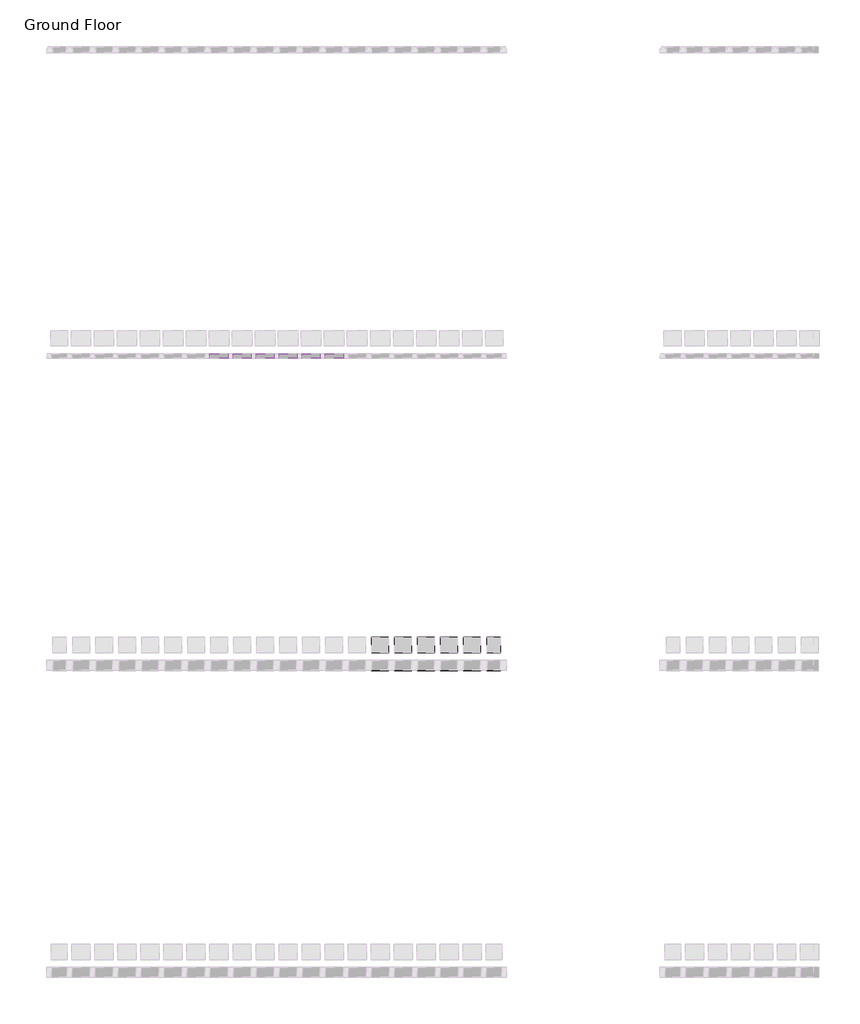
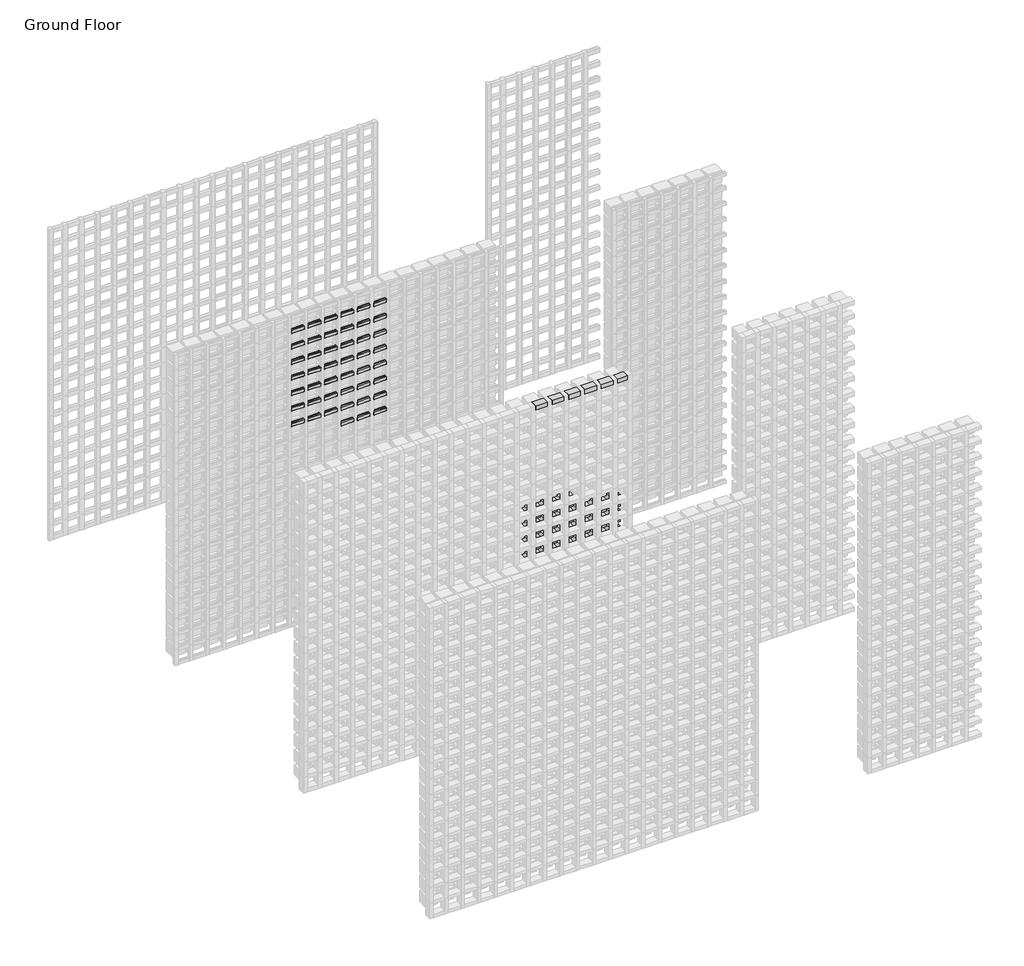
# One storey, part 91 of 350: 75 plates, 64 members.
"""IFC4 building model written with IfcOpenShell, lengths in millimetres."""

from ifc_helpers import new_model, si_unit, origin, place, context, project, spatial, transform, mapped, element, save
from components import rectangular_mullion_655930e9, rectangular_mullion_78309e0b, rectangular_mullion_581565bb, rectangular_mullion_141bfd94, rectangular_mullion_d5b82d3d, rectangular_mullion_f7732041, rectangular_mullion_707a50c4, empty_system_panel_empty_571a4fa0, empty_system_panel_empty_3b500fad, empty_system_panel_empty_1faefc6a, empty_system_panel_empty_b6d7d726

model = new_model("IFC4")

# Units and contexts
model_context = context("Model", 3, world=origin())
ifc_project = project(units=[si_unit("LENGTHUNIT", "METRE", prefix="MILLI")], contexts=[model_context])

# Site, building, storey
site = spatial("IfcSite", under=ifc_project)
building = spatial("IfcBuilding", under=site)
storey = spatial("IfcBuildingStorey", under=building, Name="Ground Floor", Elevation=0.0)

# Members
placement = place(None, origin())
rectangular_mullion_shape = rectangular_mullion_655930e9(model_context)
element("IfcMember", 1, ObjectType="Rectangular Mullion : Batten_Timber_Modinex_Austratus_Grid_Fascia_40x65_AlaskanYellowCedar", at=placement, inside=storey, context=model_context, shape_type="MappedRepresentation", body=[
    mapped(rectangular_mullion_shape, transform((4016.4361642, 40968.2978302, 0.0), x_axis=(1.0, 0.0, 0.0), y_axis=(0.0, -1.0, 0.0), z_axis=(0.0, 0.0, -1.0))),
])
element("IfcMember", 2, ObjectType="Rectangular Mullion : Batten_Timber_Modinex_Austratus_Grid_Fascia_40x65_AlaskanYellowCedar", at=placement, inside=storey, context=model_context, shape_type="MappedRepresentation", body=[
    mapped(rectangular_mullion_shape, transform((4166.4361642, 40968.2978302, 0.0), x_axis=(1.0, 0.0, 0.0), y_axis=(0.0, -1.0, 0.0), z_axis=(0.0, 0.0, -1.0))),
])
element("IfcMember", 3, ObjectType="Rectangular Mullion : Batten_Timber_Modinex_Austratus_Grid_Fascia_40x65_AlaskanYellowCedar", at=placement, inside=storey, context=model_context, shape_type="MappedRepresentation", body=[
    mapped(rectangular_mullion_shape, transform((4316.4361642, 40968.2978302, 0.0), x_axis=(1.0, 0.0, 0.0), y_axis=(0.0, -1.0, 0.0), z_axis=(0.0, 0.0, -1.0))),
])
element("IfcMember", 4, ObjectType="Rectangular Mullion : Batten_Timber_Modinex_Austratus_Grid_Fascia_40x65_AlaskanYellowCedar", at=placement, inside=storey, context=model_context, shape_type="MappedRepresentation", body=[
    mapped(rectangular_mullion_shape, transform((4466.4361642, 40968.2978302, 0.0), x_axis=(1.0, 0.0, 0.0), y_axis=(0.0, -1.0, 0.0), z_axis=(0.0, 0.0, -1.0))),
])
element("IfcMember", 5, ObjectType="Rectangular Mullion : Batten_Timber_Modinex_Austratus_Grid_Fascia_40x65_AlaskanYellowCedar", at=placement, inside=storey, context=model_context, shape_type="MappedRepresentation", body=[
    mapped(rectangular_mullion_shape, transform((4616.4361642, 40968.2978302, 0.0), x_axis=(1.0, 0.0, 0.0), y_axis=(0.0, -1.0, 0.0), z_axis=(0.0, 0.0, -1.0))),
])
element("IfcMember", 6, ObjectType="Rectangular Mullion : Batten_Timber_Modinex_Austratus_Grid_Fascia_40x65_AlaskanYellowCedar", at=placement, inside=storey, context=model_context, shape_type="MappedRepresentation", body=[
    mapped(rectangular_mullion_shape, transform((4766.4361642, 40968.2978302, 0.0), x_axis=(1.0, 0.0, 0.0), y_axis=(0.0, -1.0, 0.0), z_axis=(0.0, 0.0, -1.0))),
])
rectangular_mullion_2_shape = rectangular_mullion_78309e0b(model_context)
element("IfcMember", 7, ObjectType="Rectangular Mullion : Batten_Timber_Modinex_Austratus_Grid_Fascia_40x65_AlaskanYellowCedar", at=placement, inside=storey, context=model_context, shape_type="MappedRepresentation", body=[
    mapped(rectangular_mullion_2_shape, transform((4876.4361639, 40968.2978302, 3000.0), x_axis=(0.0, 0.0, 1.0), y_axis=(0.0, -1.0, 0.0), z_axis=(1.0, 0.0, 0.0))),
])
rectangular_mullion_3_shape = rectangular_mullion_581565bb(model_context)
element("IfcMember", 8, ObjectType="Rectangular Mullion : Batten_Timber_Modinex_Austratus_Grid_Fascia_40x65_AlaskanYellowCedar", at=placement, inside=storey, context=model_context, shape_type="MappedRepresentation", body=[
    mapped(rectangular_mullion_3_shape, transform((4146.4361642, 40968.2978302, 3000.0), x_axis=(0.0, 0.0, 1.0), y_axis=(0.0, -1.0, 0.0), z_axis=(1.0, 0.0, 0.0))),
])
element("IfcMember", 9, ObjectType="Rectangular Mullion : Batten_Timber_Modinex_Austratus_Grid_Fascia_40x65_AlaskanYellowCedar", at=placement, inside=storey, context=model_context, shape_type="MappedRepresentation", body=[
    mapped(rectangular_mullion_3_shape, transform((4296.4361642, 40968.2978302, 3000.0), x_axis=(0.0, 0.0, 1.0), y_axis=(0.0, -1.0, 0.0), z_axis=(1.0, 0.0, 0.0))),
])
element("IfcMember", 10, ObjectType="Rectangular Mullion : Batten_Timber_Modinex_Austratus_Grid_Fascia_40x65_AlaskanYellowCedar", at=placement, inside=storey, context=model_context, shape_type="MappedRepresentation", body=[
    mapped(rectangular_mullion_3_shape, transform((4446.4361642, 40968.2978302, 3000.0), x_axis=(0.0, 0.0, 1.0), y_axis=(0.0, -1.0, 0.0), z_axis=(1.0, 0.0, 0.0))),
])
element("IfcMember", 11, ObjectType="Rectangular Mullion : Batten_Timber_Modinex_Austratus_Grid_Fascia_40x65_AlaskanYellowCedar", at=placement, inside=storey, context=model_context, shape_type="MappedRepresentation", body=[
    mapped(rectangular_mullion_3_shape, transform((4596.4361642, 40968.2978302, 3000.0), x_axis=(0.0, 0.0, 1.0), y_axis=(0.0, -1.0, 0.0), z_axis=(1.0, 0.0, 0.0))),
])
element("IfcMember", 12, ObjectType="Rectangular Mullion : Batten_Timber_Modinex_Austratus_Grid_Fascia_40x65_AlaskanYellowCedar", at=placement, inside=storey, context=model_context, shape_type="MappedRepresentation", body=[
    mapped(rectangular_mullion_3_shape, transform((4746.4361642, 40968.2978302, 3000.0), x_axis=(0.0, 0.0, 1.0), y_axis=(0.0, -1.0, 0.0), z_axis=(1.0, 0.0, 0.0))),
])
rectangular_mullion_4_shape = rectangular_mullion_141bfd94(model_context)
element("IfcMember", 13, ObjectType="Rectangular Mullion : Batten_Timber_Modinex_Austratus_Grid_Fascia_40x65_AlaskanYellowCedar", at=placement, inside=storey, context=model_context, shape_type="MappedRepresentation", body=[
    mapped(rectangular_mullion_4_shape, transform((4786.4361642, 40968.2978302, 0.0), x_axis=(0.0, 0.0, -1.0), y_axis=(0.0, -1.0, 0.0), z_axis=(-1.0, 0.0, 0.0))),
])
rectangular_mullion_5_shape = rectangular_mullion_d5b82d3d(model_context)
element("IfcMember", 14, ObjectType="Rectangular Mullion : Batten_Timber_Modinex_Austratus_Grid_Fascia_40x65_AlaskanYellowCedar", at=placement, inside=storey, context=model_context, shape_type="MappedRepresentation", body=[
    mapped(rectangular_mullion_5_shape, transform((4036.4361642, 40968.2978302, 0.0), x_axis=(0.0, 0.0, -1.0), y_axis=(0.0, -1.0, 0.0), z_axis=(-1.0, 0.0, 0.0))),
])
element("IfcMember", 15, ObjectType="Rectangular Mullion : Batten_Timber_Modinex_Austratus_Grid_Fascia_40x65_AlaskanYellowCedar", at=placement, inside=storey, context=model_context, shape_type="MappedRepresentation", body=[
    mapped(rectangular_mullion_5_shape, transform((4186.4361642, 40968.2978302, 0.0), x_axis=(0.0, 0.0, -1.0), y_axis=(0.0, -1.0, 0.0), z_axis=(-1.0, 0.0, 0.0))),
])
element("IfcMember", 16, ObjectType="Rectangular Mullion : Batten_Timber_Modinex_Austratus_Grid_Fascia_40x65_AlaskanYellowCedar", at=placement, inside=storey, context=model_context, shape_type="MappedRepresentation", body=[
    mapped(rectangular_mullion_5_shape, transform((4336.4361642, 40968.2978302, 0.0), x_axis=(0.0, 0.0, -1.0), y_axis=(0.0, -1.0, 0.0), z_axis=(-1.0, 0.0, 0.0))),
])
element("IfcMember", 17, ObjectType="Rectangular Mullion : Batten_Timber_Modinex_Austratus_Grid_Fascia_40x65_AlaskanYellowCedar", at=placement, inside=storey, context=model_context, shape_type="MappedRepresentation", body=[
    mapped(rectangular_mullion_5_shape, transform((4486.4361642, 40968.2978302, 0.0), x_axis=(0.0, 0.0, -1.0), y_axis=(0.0, -1.0, 0.0), z_axis=(-1.0, 0.0, 0.0))),
])
element("IfcMember", 18, ObjectType="Rectangular Mullion : Batten_Timber_Modinex_Austratus_Grid_Fascia_40x65_AlaskanYellowCedar", at=placement, inside=storey, context=model_context, shape_type="MappedRepresentation", body=[
    mapped(rectangular_mullion_5_shape, transform((4636.4361642, 40968.2978302, 0.0), x_axis=(0.0, 0.0, -1.0), y_axis=(0.0, -1.0, 0.0), z_axis=(-1.0, 0.0, 0.0))),
])
rectangular_mullion_6_shape = rectangular_mullion_f7732041(model_context)
element("IfcMember", 19, ObjectType="Rectangular Mullion : Batten_Timber_Modinex_Austratus_Grid_Fascia_40x65_AlaskanYellowCedar", at=placement, inside=storey, context=model_context, shape_type="MappedRepresentation", body=[
    mapped(rectangular_mullion_6_shape, transform((4916.4361639, 40968.2978302, 0.0), x_axis=(1.0, 0.0, 0.0), y_axis=(0.0, -1.0, 0.0), z_axis=(0.0, 0.0, -1.0))),
])
rectangular_mullion_7_shape = rectangular_mullion_707a50c4(model_context)
element("IfcMember", 20, ObjectType="Rectangular Mullion : Batten_Timber_Modinex_Austratus_Grid_Fin_30x30_AlaskanYellowCedar", at=placement, inside=storey, context=model_context, shape_type="MappedRepresentation", body=[
    mapped(rectangular_mullion_7_shape, transform((3551.4361642, 42968.2978302, 1800.0), x_axis=(0.0, 0.0, 1.0), y_axis=(0.0, -1.0, 0.0), z_axis=(1.0, 0.0, 0.0))),
])
element("IfcMember", 21, ObjectType="Rectangular Mullion : Batten_Timber_Modinex_Austratus_Grid_Fin_30x30_AlaskanYellowCedar", at=placement, inside=storey, context=model_context, shape_type="MappedRepresentation", body=[
    mapped(rectangular_mullion_7_shape, transform((3701.4361642, 42968.2978302, 1800.0), x_axis=(0.0, 0.0, 1.0), y_axis=(0.0, -1.0, 0.0), z_axis=(1.0, 0.0, 0.0))),
])
element("IfcMember", 22, ObjectType="Rectangular Mullion : Batten_Timber_Modinex_Austratus_Grid_Fin_30x30_AlaskanYellowCedar", at=placement, inside=storey, context=model_context, shape_type="MappedRepresentation", body=[
    mapped(rectangular_mullion_7_shape, transform((3851.4361642, 42968.2978302, 1800.0), x_axis=(0.0, 0.0, 1.0), y_axis=(0.0, -1.0, 0.0), z_axis=(1.0, 0.0, 0.0))),
])
element("IfcMember", 23, ObjectType="Rectangular Mullion : Batten_Timber_Modinex_Austratus_Grid_Fin_30x30_AlaskanYellowCedar", at=placement, inside=storey, context=model_context, shape_type="MappedRepresentation", body=[
    mapped(rectangular_mullion_7_shape, transform((3101.4361642, 42968.2978302, 1950.0), x_axis=(0.0, 0.0, 1.0), y_axis=(0.0, -1.0, 0.0), z_axis=(1.0, 0.0, 0.0))),
])
element("IfcMember", 24, ObjectType="Rectangular Mullion : Batten_Timber_Modinex_Austratus_Grid_Fin_30x30_AlaskanYellowCedar", at=placement, inside=storey, context=model_context, shape_type="MappedRepresentation", body=[
    mapped(rectangular_mullion_7_shape, transform((3251.4361642, 42968.2978302, 1950.0), x_axis=(0.0, 0.0, 1.0), y_axis=(0.0, -1.0, 0.0), z_axis=(1.0, 0.0, 0.0))),
])
element("IfcMember", 25, ObjectType="Rectangular Mullion : Batten_Timber_Modinex_Austratus_Grid_Fin_30x30_AlaskanYellowCedar", at=placement, inside=storey, context=model_context, shape_type="MappedRepresentation", body=[
    mapped(rectangular_mullion_7_shape, transform((3401.4361642, 42968.2978302, 1950.0), x_axis=(0.0, 0.0, 1.0), y_axis=(0.0, -1.0, 0.0), z_axis=(1.0, 0.0, 0.0))),
])
element("IfcMember", 26, ObjectType="Rectangular Mullion : Batten_Timber_Modinex_Austratus_Grid_Fin_30x30_AlaskanYellowCedar", at=placement, inside=storey, context=model_context, shape_type="MappedRepresentation", body=[
    mapped(rectangular_mullion_7_shape, transform((3551.4361642, 42968.2978302, 1950.0), x_axis=(0.0, 0.0, 1.0), y_axis=(0.0, -1.0, 0.0), z_axis=(1.0, 0.0, 0.0))),
])
element("IfcMember", 27, ObjectType="Rectangular Mullion : Batten_Timber_Modinex_Austratus_Grid_Fin_30x30_AlaskanYellowCedar", at=placement, inside=storey, context=model_context, shape_type="MappedRepresentation", body=[
    mapped(rectangular_mullion_7_shape, transform((3701.4361642, 42968.2978302, 1950.0), x_axis=(0.0, 0.0, 1.0), y_axis=(0.0, -1.0, 0.0), z_axis=(1.0, 0.0, 0.0))),
])
element("IfcMember", 28, ObjectType="Rectangular Mullion : Batten_Timber_Modinex_Austratus_Grid_Fin_30x30_AlaskanYellowCedar", at=placement, inside=storey, context=model_context, shape_type="MappedRepresentation", body=[
    mapped(rectangular_mullion_7_shape, transform((3851.4361642, 42968.2978302, 1950.0), x_axis=(0.0, 0.0, 1.0), y_axis=(0.0, -1.0, 0.0), z_axis=(1.0, 0.0, 0.0))),
])
element("IfcMember", 29, ObjectType="Rectangular Mullion : Batten_Timber_Modinex_Austratus_Grid_Fin_30x30_AlaskanYellowCedar", at=placement, inside=storey, context=model_context, shape_type="MappedRepresentation", body=[
    mapped(rectangular_mullion_7_shape, transform((3101.4361642, 42968.2978302, 2100.0), x_axis=(0.0, 0.0, 1.0), y_axis=(0.0, -1.0, 0.0), z_axis=(1.0, 0.0, 0.0))),
])
element("IfcMember", 30, ObjectType="Rectangular Mullion : Batten_Timber_Modinex_Austratus_Grid_Fin_30x30_AlaskanYellowCedar", at=placement, inside=storey, context=model_context, shape_type="MappedRepresentation", body=[
    mapped(rectangular_mullion_7_shape, transform((3251.4361642, 42968.2978302, 2100.0), x_axis=(0.0, 0.0, 1.0), y_axis=(0.0, -1.0, 0.0), z_axis=(1.0, 0.0, 0.0))),
])
element("IfcMember", 31, ObjectType="Rectangular Mullion : Batten_Timber_Modinex_Austratus_Grid_Fin_30x30_AlaskanYellowCedar", at=placement, inside=storey, context=model_context, shape_type="MappedRepresentation", body=[
    mapped(rectangular_mullion_7_shape, transform((3401.4361642, 42968.2978302, 2100.0), x_axis=(0.0, 0.0, 1.0), y_axis=(0.0, -1.0, 0.0), z_axis=(1.0, 0.0, 0.0))),
])
element("IfcMember", 32, ObjectType="Rectangular Mullion : Batten_Timber_Modinex_Austratus_Grid_Fin_30x30_AlaskanYellowCedar", at=placement, inside=storey, context=model_context, shape_type="MappedRepresentation", body=[
    mapped(rectangular_mullion_7_shape, transform((3551.4361642, 42968.2978302, 2100.0), x_axis=(0.0, 0.0, 1.0), y_axis=(0.0, -1.0, 0.0), z_axis=(1.0, 0.0, 0.0))),
])
element("IfcMember", 33, ObjectType="Rectangular Mullion : Batten_Timber_Modinex_Austratus_Grid_Fin_30x30_AlaskanYellowCedar", at=placement, inside=storey, context=model_context, shape_type="MappedRepresentation", body=[
    mapped(rectangular_mullion_7_shape, transform((3701.4361642, 42968.2978302, 2100.0), x_axis=(0.0, 0.0, 1.0), y_axis=(0.0, -1.0, 0.0), z_axis=(1.0, 0.0, 0.0))),
])
element("IfcMember", 34, ObjectType="Rectangular Mullion : Batten_Timber_Modinex_Austratus_Grid_Fin_30x30_AlaskanYellowCedar", at=placement, inside=storey, context=model_context, shape_type="MappedRepresentation", body=[
    mapped(rectangular_mullion_7_shape, transform((3851.4361642, 42968.2978302, 2100.0), x_axis=(0.0, 0.0, 1.0), y_axis=(0.0, -1.0, 0.0), z_axis=(1.0, 0.0, 0.0))),
])
element("IfcMember", 35, ObjectType="Rectangular Mullion : Batten_Timber_Modinex_Austratus_Grid_Fin_30x30_AlaskanYellowCedar", at=placement, inside=storey, context=model_context, shape_type="MappedRepresentation", body=[
    mapped(rectangular_mullion_7_shape, transform((3101.4361642, 42968.2978302, 2250.0), x_axis=(0.0, 0.0, 1.0), y_axis=(0.0, -1.0, 0.0), z_axis=(1.0, 0.0, 0.0))),
])
element("IfcMember", 36, ObjectType="Rectangular Mullion : Batten_Timber_Modinex_Austratus_Grid_Fin_30x30_AlaskanYellowCedar", at=placement, inside=storey, context=model_context, shape_type="MappedRepresentation", body=[
    mapped(rectangular_mullion_7_shape, transform((3251.4361642, 42968.2978302, 2250.0), x_axis=(0.0, 0.0, 1.0), y_axis=(0.0, -1.0, 0.0), z_axis=(1.0, 0.0, 0.0))),
])
element("IfcMember", 37, ObjectType="Rectangular Mullion : Batten_Timber_Modinex_Austratus_Grid_Fin_30x30_AlaskanYellowCedar", at=placement, inside=storey, context=model_context, shape_type="MappedRepresentation", body=[
    mapped(rectangular_mullion_7_shape, transform((3401.4361642, 42968.2978302, 2250.0), x_axis=(0.0, 0.0, 1.0), y_axis=(0.0, -1.0, 0.0), z_axis=(1.0, 0.0, 0.0))),
])
element("IfcMember", 38, ObjectType="Rectangular Mullion : Batten_Timber_Modinex_Austratus_Grid_Fin_30x30_AlaskanYellowCedar", at=placement, inside=storey, context=model_context, shape_type="MappedRepresentation", body=[
    mapped(rectangular_mullion_7_shape, transform((3551.4361642, 42968.2978302, 2250.0), x_axis=(0.0, 0.0, 1.0), y_axis=(0.0, -1.0, 0.0), z_axis=(1.0, 0.0, 0.0))),
])
element("IfcMember", 39, ObjectType="Rectangular Mullion : Batten_Timber_Modinex_Austratus_Grid_Fin_30x30_AlaskanYellowCedar", at=placement, inside=storey, context=model_context, shape_type="MappedRepresentation", body=[
    mapped(rectangular_mullion_7_shape, transform((3701.4361642, 42968.2978302, 2250.0), x_axis=(0.0, 0.0, 1.0), y_axis=(0.0, -1.0, 0.0), z_axis=(1.0, 0.0, 0.0))),
])
element("IfcMember", 40, ObjectType="Rectangular Mullion : Batten_Timber_Modinex_Austratus_Grid_Fin_30x30_AlaskanYellowCedar", at=placement, inside=storey, context=model_context, shape_type="MappedRepresentation", body=[
    mapped(rectangular_mullion_7_shape, transform((3851.4361642, 42968.2978302, 2250.0), x_axis=(0.0, 0.0, 1.0), y_axis=(0.0, -1.0, 0.0), z_axis=(1.0, 0.0, 0.0))),
])
element("IfcMember", 41, ObjectType="Rectangular Mullion : Batten_Timber_Modinex_Austratus_Grid_Fin_30x30_AlaskanYellowCedar", at=placement, inside=storey, context=model_context, shape_type="MappedRepresentation", body=[
    mapped(rectangular_mullion_7_shape, transform((3101.4361642, 42968.2978302, 2400.0), x_axis=(0.0, 0.0, 1.0), y_axis=(0.0, -1.0, 0.0), z_axis=(1.0, 0.0, 0.0))),
])
element("IfcMember", 42, ObjectType="Rectangular Mullion : Batten_Timber_Modinex_Austratus_Grid_Fin_30x30_AlaskanYellowCedar", at=placement, inside=storey, context=model_context, shape_type="MappedRepresentation", body=[
    mapped(rectangular_mullion_7_shape, transform((3251.4361642, 42968.2978302, 2400.0), x_axis=(0.0, 0.0, 1.0), y_axis=(0.0, -1.0, 0.0), z_axis=(1.0, 0.0, 0.0))),
])
element("IfcMember", 43, ObjectType="Rectangular Mullion : Batten_Timber_Modinex_Austratus_Grid_Fin_30x30_AlaskanYellowCedar", at=placement, inside=storey, context=model_context, shape_type="MappedRepresentation", body=[
    mapped(rectangular_mullion_7_shape, transform((3401.4361642, 42968.2978302, 2400.0), x_axis=(0.0, 0.0, 1.0), y_axis=(0.0, -1.0, 0.0), z_axis=(1.0, 0.0, 0.0))),
])
element("IfcMember", 44, ObjectType="Rectangular Mullion : Batten_Timber_Modinex_Austratus_Grid_Fin_30x30_AlaskanYellowCedar", at=placement, inside=storey, context=model_context, shape_type="MappedRepresentation", body=[
    mapped(rectangular_mullion_7_shape, transform((3551.4361642, 42968.2978302, 2400.0), x_axis=(0.0, 0.0, 1.0), y_axis=(0.0, -1.0, 0.0), z_axis=(1.0, 0.0, 0.0))),
])
element("IfcMember", 45, ObjectType="Rectangular Mullion : Batten_Timber_Modinex_Austratus_Grid_Fin_30x30_AlaskanYellowCedar", at=placement, inside=storey, context=model_context, shape_type="MappedRepresentation", body=[
    mapped(rectangular_mullion_7_shape, transform((3701.4361642, 42968.2978302, 2400.0), x_axis=(0.0, 0.0, 1.0), y_axis=(0.0, -1.0, 0.0), z_axis=(1.0, 0.0, 0.0))),
])
element("IfcMember", 46, ObjectType="Rectangular Mullion : Batten_Timber_Modinex_Austratus_Grid_Fin_30x30_AlaskanYellowCedar", at=placement, inside=storey, context=model_context, shape_type="MappedRepresentation", body=[
    mapped(rectangular_mullion_7_shape, transform((3851.4361642, 42968.2978302, 2400.0), x_axis=(0.0, 0.0, 1.0), y_axis=(0.0, -1.0, 0.0), z_axis=(1.0, 0.0, 0.0))),
])
element("IfcMember", 47, ObjectType="Rectangular Mullion : Batten_Timber_Modinex_Austratus_Grid_Fin_30x30_AlaskanYellowCedar", at=placement, inside=storey, context=model_context, shape_type="MappedRepresentation", body=[
    mapped(rectangular_mullion_7_shape, transform((3101.4361642, 42968.2978302, 2550.0), x_axis=(0.0, 0.0, 1.0), y_axis=(0.0, -1.0, 0.0), z_axis=(1.0, 0.0, 0.0))),
])
element("IfcMember", 48, ObjectType="Rectangular Mullion : Batten_Timber_Modinex_Austratus_Grid_Fin_30x30_AlaskanYellowCedar", at=placement, inside=storey, context=model_context, shape_type="MappedRepresentation", body=[
    mapped(rectangular_mullion_7_shape, transform((3251.4361642, 42968.2978302, 2550.0), x_axis=(0.0, 0.0, 1.0), y_axis=(0.0, -1.0, 0.0), z_axis=(1.0, 0.0, 0.0))),
])
element("IfcMember", 49, ObjectType="Rectangular Mullion : Batten_Timber_Modinex_Austratus_Grid_Fin_30x30_AlaskanYellowCedar", at=placement, inside=storey, context=model_context, shape_type="MappedRepresentation", body=[
    mapped(rectangular_mullion_7_shape, transform((3401.4361642, 42968.2978302, 2550.0), x_axis=(0.0, 0.0, 1.0), y_axis=(0.0, -1.0, 0.0), z_axis=(1.0, 0.0, 0.0))),
])
element("IfcMember", 50, ObjectType="Rectangular Mullion : Batten_Timber_Modinex_Austratus_Grid_Fin_30x30_AlaskanYellowCedar", at=placement, inside=storey, context=model_context, shape_type="MappedRepresentation", body=[
    mapped(rectangular_mullion_7_shape, transform((3551.4361642, 42968.2978302, 2550.0), x_axis=(0.0, 0.0, 1.0), y_axis=(0.0, -1.0, 0.0), z_axis=(1.0, 0.0, 0.0))),
])
element("IfcMember", 51, ObjectType="Rectangular Mullion : Batten_Timber_Modinex_Austratus_Grid_Fin_30x30_AlaskanYellowCedar", at=placement, inside=storey, context=model_context, shape_type="MappedRepresentation", body=[
    mapped(rectangular_mullion_7_shape, transform((3701.4361642, 42968.2978302, 2550.0), x_axis=(0.0, 0.0, 1.0), y_axis=(0.0, -1.0, 0.0), z_axis=(1.0, 0.0, 0.0))),
])
element("IfcMember", 52, ObjectType="Rectangular Mullion : Batten_Timber_Modinex_Austratus_Grid_Fin_30x30_AlaskanYellowCedar", at=placement, inside=storey, context=model_context, shape_type="MappedRepresentation", body=[
    mapped(rectangular_mullion_7_shape, transform((3851.4361642, 42968.2978302, 2550.0), x_axis=(0.0, 0.0, 1.0), y_axis=(0.0, -1.0, 0.0), z_axis=(1.0, 0.0, 0.0))),
])
element("IfcMember", 53, ObjectType="Rectangular Mullion : Batten_Timber_Modinex_Austratus_Grid_Fin_30x30_AlaskanYellowCedar", at=placement, inside=storey, context=model_context, shape_type="MappedRepresentation", body=[
    mapped(rectangular_mullion_7_shape, transform((3101.4361642, 42968.2978302, 2700.0), x_axis=(0.0, 0.0, 1.0), y_axis=(0.0, -1.0, 0.0), z_axis=(1.0, 0.0, 0.0))),
])
element("IfcMember", 54, ObjectType="Rectangular Mullion : Batten_Timber_Modinex_Austratus_Grid_Fin_30x30_AlaskanYellowCedar", at=placement, inside=storey, context=model_context, shape_type="MappedRepresentation", body=[
    mapped(rectangular_mullion_7_shape, transform((3251.4361642, 42968.2978302, 2700.0), x_axis=(0.0, 0.0, 1.0), y_axis=(0.0, -1.0, 0.0), z_axis=(1.0, 0.0, 0.0))),
])
element("IfcMember", 55, ObjectType="Rectangular Mullion : Batten_Timber_Modinex_Austratus_Grid_Fin_30x30_AlaskanYellowCedar", at=placement, inside=storey, context=model_context, shape_type="MappedRepresentation", body=[
    mapped(rectangular_mullion_7_shape, transform((3401.4361642, 42968.2978302, 2700.0), x_axis=(0.0, 0.0, 1.0), y_axis=(0.0, -1.0, 0.0), z_axis=(1.0, 0.0, 0.0))),
])
element("IfcMember", 56, ObjectType="Rectangular Mullion : Batten_Timber_Modinex_Austratus_Grid_Fin_30x30_AlaskanYellowCedar", at=placement, inside=storey, context=model_context, shape_type="MappedRepresentation", body=[
    mapped(rectangular_mullion_7_shape, transform((3551.4361642, 42968.2978302, 2700.0), x_axis=(0.0, 0.0, 1.0), y_axis=(0.0, -1.0, 0.0), z_axis=(1.0, 0.0, 0.0))),
])
element("IfcMember", 57, ObjectType="Rectangular Mullion : Batten_Timber_Modinex_Austratus_Grid_Fin_30x30_AlaskanYellowCedar", at=placement, inside=storey, context=model_context, shape_type="MappedRepresentation", body=[
    mapped(rectangular_mullion_7_shape, transform((3701.4361642, 42968.2978302, 2700.0), x_axis=(0.0, 0.0, 1.0), y_axis=(0.0, -1.0, 0.0), z_axis=(1.0, 0.0, 0.0))),
])
element("IfcMember", 58, ObjectType="Rectangular Mullion : Batten_Timber_Modinex_Austratus_Grid_Fin_30x30_AlaskanYellowCedar", at=placement, inside=storey, context=model_context, shape_type="MappedRepresentation", body=[
    mapped(rectangular_mullion_7_shape, transform((3851.4361642, 42968.2978302, 2700.0), x_axis=(0.0, 0.0, 1.0), y_axis=(0.0, -1.0, 0.0), z_axis=(1.0, 0.0, 0.0))),
])
element("IfcMember", 59, ObjectType="Rectangular Mullion : Batten_Timber_Modinex_Austratus_Grid_Fin_30x30_AlaskanYellowCedar", at=placement, inside=storey, context=model_context, shape_type="MappedRepresentation", body=[
    mapped(rectangular_mullion_7_shape, transform((3101.4361642, 42968.2978302, 2850.0), x_axis=(0.0, 0.0, 1.0), y_axis=(0.0, -1.0, 0.0), z_axis=(1.0, 0.0, 0.0))),
])
element("IfcMember", 60, ObjectType="Rectangular Mullion : Batten_Timber_Modinex_Austratus_Grid_Fin_30x30_AlaskanYellowCedar", at=placement, inside=storey, context=model_context, shape_type="MappedRepresentation", body=[
    mapped(rectangular_mullion_7_shape, transform((3251.4361642, 42968.2978302, 2850.0), x_axis=(0.0, 0.0, 1.0), y_axis=(0.0, -1.0, 0.0), z_axis=(1.0, 0.0, 0.0))),
])
element("IfcMember", 61, ObjectType="Rectangular Mullion : Batten_Timber_Modinex_Austratus_Grid_Fin_30x30_AlaskanYellowCedar", at=placement, inside=storey, context=model_context, shape_type="MappedRepresentation", body=[
    mapped(rectangular_mullion_7_shape, transform((3401.4361642, 42968.2978302, 2850.0), x_axis=(0.0, 0.0, 1.0), y_axis=(0.0, -1.0, 0.0), z_axis=(1.0, 0.0, 0.0))),
])
element("IfcMember", 62, ObjectType="Rectangular Mullion : Batten_Timber_Modinex_Austratus_Grid_Fin_30x30_AlaskanYellowCedar", at=placement, inside=storey, context=model_context, shape_type="MappedRepresentation", body=[
    mapped(rectangular_mullion_7_shape, transform((3551.4361642, 42968.2978302, 2850.0), x_axis=(0.0, 0.0, 1.0), y_axis=(0.0, -1.0, 0.0), z_axis=(1.0, 0.0, 0.0))),
])
element("IfcMember", 63, ObjectType="Rectangular Mullion : Batten_Timber_Modinex_Austratus_Grid_Fin_30x30_AlaskanYellowCedar", at=placement, inside=storey, context=model_context, shape_type="MappedRepresentation", body=[
    mapped(rectangular_mullion_7_shape, transform((3701.4361642, 42968.2978302, 2850.0), x_axis=(0.0, 0.0, 1.0), y_axis=(0.0, -1.0, 0.0), z_axis=(1.0, 0.0, 0.0))),
])
element("IfcMember", 64, ObjectType="Rectangular Mullion : Batten_Timber_Modinex_Austratus_Grid_Fin_30x30_AlaskanYellowCedar", at=placement, inside=storey, context=model_context, shape_type="MappedRepresentation", body=[
    mapped(rectangular_mullion_7_shape, transform((3851.4361642, 42968.2978302, 2850.0), x_axis=(0.0, 0.0, 1.0), y_axis=(0.0, -1.0, 0.0), z_axis=(1.0, 0.0, 0.0))),
])

# Plates
empty_system_panel_empty_shape = empty_system_panel_empty_571a4fa0(model_context)
element("IfcPlate", 65, ObjectType="Empty System Panel : Empty", at=placement, inside=storey, context=model_context, shape_type="MappedRepresentation", body=[
    mapped(empty_system_panel_empty_shape, transform((4831.4361641, 40968.2978302, 40.0), x_axis=(1.0, 0.0, 0.0), y_axis=(0.0, 1.0, 0.0), z_axis=(0.0, 0.0, 1.0))),
])
empty_system_panel_empty_2_shape = empty_system_panel_empty_3b500fad(model_context)
element("IfcPlate", 66, ObjectType="Empty System Panel : Empty", at=placement, inside=storey, context=model_context, shape_type="MappedRepresentation", body=[
    mapped(empty_system_panel_empty_2_shape, transform((4091.4361642, 40968.2978302, 170.0), x_axis=(1.0, 0.0, 0.0), y_axis=(0.0, 1.0, 0.0), z_axis=(0.0, 0.0, 1.0))),
])
element("IfcPlate", 67, ObjectType="Empty System Panel : Empty", at=placement, inside=storey, context=model_context, shape_type="MappedRepresentation", body=[
    mapped(empty_system_panel_empty_2_shape, transform((4241.4361642, 40968.2978302, 170.0), x_axis=(1.0, 0.0, 0.0), y_axis=(0.0, 1.0, 0.0), z_axis=(0.0, 0.0, 1.0))),
])
element("IfcPlate", 68, ObjectType="Empty System Panel : Empty", at=placement, inside=storey, context=model_context, shape_type="MappedRepresentation", body=[
    mapped(empty_system_panel_empty_2_shape, transform((4391.4361642, 40968.2978302, 170.0), x_axis=(1.0, 0.0, 0.0), y_axis=(0.0, 1.0, 0.0), z_axis=(0.0, 0.0, 1.0))),
])
element("IfcPlate", 69, ObjectType="Empty System Panel : Empty", at=placement, inside=storey, context=model_context, shape_type="MappedRepresentation", body=[
    mapped(empty_system_panel_empty_2_shape, transform((4541.4361642, 40968.2978302, 170.0), x_axis=(1.0, 0.0, 0.0), y_axis=(0.0, 1.0, 0.0), z_axis=(0.0, 0.0, 1.0))),
])
element("IfcPlate", 70, ObjectType="Empty System Panel : Empty", at=placement, inside=storey, context=model_context, shape_type="MappedRepresentation", body=[
    mapped(empty_system_panel_empty_2_shape, transform((4691.4361642, 40968.2978302, 170.0), x_axis=(1.0, 0.0, 0.0), y_axis=(0.0, 1.0, 0.0), z_axis=(0.0, 0.0, 1.0))),
])
element("IfcPlate", 71, ObjectType="Empty System Panel : Empty", at=placement, inside=storey, context=model_context, shape_type="MappedRepresentation", body=[
    mapped(empty_system_panel_empty_2_shape, transform((4091.4361642, 40968.2978302, 320.0), x_axis=(1.0, 0.0, 0.0), y_axis=(0.0, 1.0, 0.0), z_axis=(0.0, 0.0, 1.0))),
])
element("IfcPlate", 72, ObjectType="Empty System Panel : Empty", at=placement, inside=storey, context=model_context, shape_type="MappedRepresentation", body=[
    mapped(empty_system_panel_empty_2_shape, transform((4241.4361642, 40968.2978302, 320.0), x_axis=(1.0, 0.0, 0.0), y_axis=(0.0, 1.0, 0.0), z_axis=(0.0, 0.0, 1.0))),
])
element("IfcPlate", 73, ObjectType="Empty System Panel : Empty", at=placement, inside=storey, context=model_context, shape_type="MappedRepresentation", body=[
    mapped(empty_system_panel_empty_2_shape, transform((4391.4361642, 40968.2978302, 320.0), x_axis=(1.0, 0.0, 0.0), y_axis=(0.0, 1.0, 0.0), z_axis=(0.0, 0.0, 1.0))),
])
element("IfcPlate", 74, ObjectType="Empty System Panel : Empty", at=placement, inside=storey, context=model_context, shape_type="MappedRepresentation", body=[
    mapped(empty_system_panel_empty_2_shape, transform((4541.4361642, 40968.2978302, 320.0), x_axis=(1.0, 0.0, 0.0), y_axis=(0.0, 1.0, 0.0), z_axis=(0.0, 0.0, 1.0))),
])
element("IfcPlate", 75, ObjectType="Empty System Panel : Empty", at=placement, inside=storey, context=model_context, shape_type="MappedRepresentation", body=[
    mapped(empty_system_panel_empty_2_shape, transform((4691.4361642, 40968.2978302, 320.0), x_axis=(1.0, 0.0, 0.0), y_axis=(0.0, 1.0, 0.0), z_axis=(0.0, 0.0, 1.0))),
])
element("IfcPlate", 76, ObjectType="Empty System Panel : Empty", at=placement, inside=storey, context=model_context, shape_type="MappedRepresentation", body=[
    mapped(empty_system_panel_empty_2_shape, transform((4091.4361642, 40968.2978302, 470.0), x_axis=(1.0, 0.0, 0.0), y_axis=(0.0, 1.0, 0.0), z_axis=(0.0, 0.0, 1.0))),
])
element("IfcPlate", 77, ObjectType="Empty System Panel : Empty", at=placement, inside=storey, context=model_context, shape_type="MappedRepresentation", body=[
    mapped(empty_system_panel_empty_2_shape, transform((4241.4361642, 40968.2978302, 470.0), x_axis=(1.0, 0.0, 0.0), y_axis=(0.0, 1.0, 0.0), z_axis=(0.0, 0.0, 1.0))),
])
element("IfcPlate", 78, ObjectType="Empty System Panel : Empty", at=placement, inside=storey, context=model_context, shape_type="MappedRepresentation", body=[
    mapped(empty_system_panel_empty_2_shape, transform((4391.4361642, 40968.2978302, 470.0), x_axis=(1.0, 0.0, 0.0), y_axis=(0.0, 1.0, 0.0), z_axis=(0.0, 0.0, 1.0))),
])
element("IfcPlate", 79, ObjectType="Empty System Panel : Empty", at=placement, inside=storey, context=model_context, shape_type="MappedRepresentation", body=[
    mapped(empty_system_panel_empty_2_shape, transform((4541.4361642, 40968.2978302, 470.0), x_axis=(1.0, 0.0, 0.0), y_axis=(0.0, 1.0, 0.0), z_axis=(0.0, 0.0, 1.0))),
])
element("IfcPlate", 80, ObjectType="Empty System Panel : Empty", at=placement, inside=storey, context=model_context, shape_type="MappedRepresentation", body=[
    mapped(empty_system_panel_empty_2_shape, transform((4691.4361642, 40968.2978302, 470.0), x_axis=(1.0, 0.0, 0.0), y_axis=(0.0, 1.0, 0.0), z_axis=(0.0, 0.0, 1.0))),
])
element("IfcPlate", 81, ObjectType="Empty System Panel : Empty", at=placement, inside=storey, context=model_context, shape_type="MappedRepresentation", body=[
    mapped(empty_system_panel_empty_2_shape, transform((4091.4361642, 40968.2978302, 620.0), x_axis=(1.0, 0.0, 0.0), y_axis=(0.0, 1.0, 0.0), z_axis=(0.0, 0.0, 1.0))),
])
element("IfcPlate", 82, ObjectType="Empty System Panel : Empty", at=placement, inside=storey, context=model_context, shape_type="MappedRepresentation", body=[
    mapped(empty_system_panel_empty_2_shape, transform((4241.4361642, 40968.2978302, 620.0), x_axis=(1.0, 0.0, 0.0), y_axis=(0.0, 1.0, 0.0), z_axis=(0.0, 0.0, 1.0))),
])
element("IfcPlate", 83, ObjectType="Empty System Panel : Empty", at=placement, inside=storey, context=model_context, shape_type="MappedRepresentation", body=[
    mapped(empty_system_panel_empty_2_shape, transform((4391.4361642, 40968.2978302, 620.0), x_axis=(1.0, 0.0, 0.0), y_axis=(0.0, 1.0, 0.0), z_axis=(0.0, 0.0, 1.0))),
])
element("IfcPlate", 84, ObjectType="Empty System Panel : Empty", at=placement, inside=storey, context=model_context, shape_type="MappedRepresentation", body=[
    mapped(empty_system_panel_empty_2_shape, transform((4541.4361642, 40968.2978302, 620.0), x_axis=(1.0, 0.0, 0.0), y_axis=(0.0, 1.0, 0.0), z_axis=(0.0, 0.0, 1.0))),
])
element("IfcPlate", 85, ObjectType="Empty System Panel : Empty", at=placement, inside=storey, context=model_context, shape_type="MappedRepresentation", body=[
    mapped(empty_system_panel_empty_2_shape, transform((4691.4361642, 40968.2978302, 620.0), x_axis=(1.0, 0.0, 0.0), y_axis=(0.0, 1.0, 0.0), z_axis=(0.0, 0.0, 1.0))),
])
element("IfcPlate", 86, ObjectType="Empty System Panel : Empty", at=placement, inside=storey, context=model_context, shape_type="MappedRepresentation", body=[
    mapped(empty_system_panel_empty_2_shape, transform((4091.4361642, 40968.2978302, 770.0), x_axis=(1.0, 0.0, 0.0), y_axis=(0.0, 1.0, 0.0), z_axis=(0.0, 0.0, 1.0))),
])
element("IfcPlate", 87, ObjectType="Empty System Panel : Empty", at=placement, inside=storey, context=model_context, shape_type="MappedRepresentation", body=[
    mapped(empty_system_panel_empty_2_shape, transform((4241.4361642, 40968.2978302, 770.0), x_axis=(1.0, 0.0, 0.0), y_axis=(0.0, 1.0, 0.0), z_axis=(0.0, 0.0, 1.0))),
])
element("IfcPlate", 88, ObjectType="Empty System Panel : Empty", at=placement, inside=storey, context=model_context, shape_type="MappedRepresentation", body=[
    mapped(empty_system_panel_empty_2_shape, transform((4391.4361642, 40968.2978302, 770.0), x_axis=(1.0, 0.0, 0.0), y_axis=(0.0, 1.0, 0.0), z_axis=(0.0, 0.0, 1.0))),
])
element("IfcPlate", 89, ObjectType="Empty System Panel : Empty", at=placement, inside=storey, context=model_context, shape_type="MappedRepresentation", body=[
    mapped(empty_system_panel_empty_2_shape, transform((4541.4361642, 40968.2978302, 770.0), x_axis=(1.0, 0.0, 0.0), y_axis=(0.0, 1.0, 0.0), z_axis=(0.0, 0.0, 1.0))),
])
element("IfcPlate", 90, ObjectType="Empty System Panel : Empty", at=placement, inside=storey, context=model_context, shape_type="MappedRepresentation", body=[
    mapped(empty_system_panel_empty_2_shape, transform((4691.4361642, 40968.2978302, 770.0), x_axis=(1.0, 0.0, 0.0), y_axis=(0.0, 1.0, 0.0), z_axis=(0.0, 0.0, 1.0))),
])
element("IfcPlate", 91, ObjectType="Empty System Panel : Empty", at=placement, inside=storey, context=model_context, shape_type="MappedRepresentation", body=[
    mapped(empty_system_panel_empty_2_shape, transform((4091.4361642, 40968.2978302, 920.0), x_axis=(1.0, 0.0, 0.0), y_axis=(0.0, 1.0, 0.0), z_axis=(0.0, 0.0, 1.0))),
])
element("IfcPlate", 92, ObjectType="Empty System Panel : Empty", at=placement, inside=storey, context=model_context, shape_type="MappedRepresentation", body=[
    mapped(empty_system_panel_empty_2_shape, transform((4241.4361642, 40968.2978302, 920.0), x_axis=(1.0, 0.0, 0.0), y_axis=(0.0, 1.0, 0.0), z_axis=(0.0, 0.0, 1.0))),
])
element("IfcPlate", 93, ObjectType="Empty System Panel : Empty", at=placement, inside=storey, context=model_context, shape_type="MappedRepresentation", body=[
    mapped(empty_system_panel_empty_2_shape, transform((4391.4361642, 40968.2978302, 920.0), x_axis=(1.0, 0.0, 0.0), y_axis=(0.0, 1.0, 0.0), z_axis=(0.0, 0.0, 1.0))),
])
element("IfcPlate", 94, ObjectType="Empty System Panel : Empty", at=placement, inside=storey, context=model_context, shape_type="MappedRepresentation", body=[
    mapped(empty_system_panel_empty_2_shape, transform((4541.4361642, 40968.2978302, 920.0), x_axis=(1.0, 0.0, 0.0), y_axis=(0.0, 1.0, 0.0), z_axis=(0.0, 0.0, 1.0))),
])
element("IfcPlate", 95, ObjectType="Empty System Panel : Empty", at=placement, inside=storey, context=model_context, shape_type="MappedRepresentation", body=[
    mapped(empty_system_panel_empty_2_shape, transform((4691.4361642, 40968.2978302, 920.0), x_axis=(1.0, 0.0, 0.0), y_axis=(0.0, 1.0, 0.0), z_axis=(0.0, 0.0, 1.0))),
])
element("IfcPlate", 96, ObjectType="Empty System Panel : Empty", at=placement, inside=storey, context=model_context, shape_type="MappedRepresentation", body=[
    mapped(empty_system_panel_empty_2_shape, transform((4091.4361642, 40968.2978302, 1070.0), x_axis=(1.0, 0.0, 0.0), y_axis=(0.0, 1.0, 0.0), z_axis=(0.0, 0.0, 1.0))),
])
element("IfcPlate", 97, ObjectType="Empty System Panel : Empty", at=placement, inside=storey, context=model_context, shape_type="MappedRepresentation", body=[
    mapped(empty_system_panel_empty_2_shape, transform((4241.4361642, 40968.2978302, 1070.0), x_axis=(1.0, 0.0, 0.0), y_axis=(0.0, 1.0, 0.0), z_axis=(0.0, 0.0, 1.0))),
])
element("IfcPlate", 98, ObjectType="Empty System Panel : Empty", at=placement, inside=storey, context=model_context, shape_type="MappedRepresentation", body=[
    mapped(empty_system_panel_empty_2_shape, transform((4391.4361642, 40968.2978302, 1070.0), x_axis=(1.0, 0.0, 0.0), y_axis=(0.0, 1.0, 0.0), z_axis=(0.0, 0.0, 1.0))),
])
element("IfcPlate", 99, ObjectType="Empty System Panel : Empty", at=placement, inside=storey, context=model_context, shape_type="MappedRepresentation", body=[
    mapped(empty_system_panel_empty_2_shape, transform((4541.4361642, 40968.2978302, 1070.0), x_axis=(1.0, 0.0, 0.0), y_axis=(0.0, 1.0, 0.0), z_axis=(0.0, 0.0, 1.0))),
])
element("IfcPlate", 100, ObjectType="Empty System Panel : Empty", at=placement, inside=storey, context=model_context, shape_type="MappedRepresentation", body=[
    mapped(empty_system_panel_empty_2_shape, transform((4691.4361642, 40968.2978302, 1070.0), x_axis=(1.0, 0.0, 0.0), y_axis=(0.0, 1.0, 0.0), z_axis=(0.0, 0.0, 1.0))),
])
element("IfcPlate", 101, ObjectType="Empty System Panel : Empty", at=placement, inside=storey, context=model_context, shape_type="MappedRepresentation", body=[
    mapped(empty_system_panel_empty_2_shape, transform((4091.4361642, 40968.2978302, 1220.0), x_axis=(1.0, 0.0, 0.0), y_axis=(0.0, 1.0, 0.0), z_axis=(0.0, 0.0, 1.0))),
])
element("IfcPlate", 102, ObjectType="Empty System Panel : Empty", at=placement, inside=storey, context=model_context, shape_type="MappedRepresentation", body=[
    mapped(empty_system_panel_empty_2_shape, transform((4241.4361642, 40968.2978302, 1220.0), x_axis=(1.0, 0.0, 0.0), y_axis=(0.0, 1.0, 0.0), z_axis=(0.0, 0.0, 1.0))),
])
element("IfcPlate", 103, ObjectType="Empty System Panel : Empty", at=placement, inside=storey, context=model_context, shape_type="MappedRepresentation", body=[
    mapped(empty_system_panel_empty_2_shape, transform((4391.4361642, 40968.2978302, 1220.0), x_axis=(1.0, 0.0, 0.0), y_axis=(0.0, 1.0, 0.0), z_axis=(0.0, 0.0, 1.0))),
])
element("IfcPlate", 104, ObjectType="Empty System Panel : Empty", at=placement, inside=storey, context=model_context, shape_type="MappedRepresentation", body=[
    mapped(empty_system_panel_empty_2_shape, transform((4541.4361642, 40968.2978302, 1220.0), x_axis=(1.0, 0.0, 0.0), y_axis=(0.0, 1.0, 0.0), z_axis=(0.0, 0.0, 1.0))),
])
element("IfcPlate", 105, ObjectType="Empty System Panel : Empty", at=placement, inside=storey, context=model_context, shape_type="MappedRepresentation", body=[
    mapped(empty_system_panel_empty_2_shape, transform((4691.4361642, 40968.2978302, 1220.0), x_axis=(1.0, 0.0, 0.0), y_axis=(0.0, 1.0, 0.0), z_axis=(0.0, 0.0, 1.0))),
])
element("IfcPlate", 106, ObjectType="Empty System Panel : Empty", at=placement, inside=storey, context=model_context, shape_type="MappedRepresentation", body=[
    mapped(empty_system_panel_empty_2_shape, transform((4091.4361642, 40968.2978302, 1370.0), x_axis=(1.0, 0.0, 0.0), y_axis=(0.0, 1.0, 0.0), z_axis=(0.0, 0.0, 1.0))),
])
element("IfcPlate", 107, ObjectType="Empty System Panel : Empty", at=placement, inside=storey, context=model_context, shape_type="MappedRepresentation", body=[
    mapped(empty_system_panel_empty_2_shape, transform((4241.4361642, 40968.2978302, 1370.0), x_axis=(1.0, 0.0, 0.0), y_axis=(0.0, 1.0, 0.0), z_axis=(0.0, 0.0, 1.0))),
])
element("IfcPlate", 108, ObjectType="Empty System Panel : Empty", at=placement, inside=storey, context=model_context, shape_type="MappedRepresentation", body=[
    mapped(empty_system_panel_empty_2_shape, transform((4391.4361642, 40968.2978302, 1370.0), x_axis=(1.0, 0.0, 0.0), y_axis=(0.0, 1.0, 0.0), z_axis=(0.0, 0.0, 1.0))),
])
element("IfcPlate", 109, ObjectType="Empty System Panel : Empty", at=placement, inside=storey, context=model_context, shape_type="MappedRepresentation", body=[
    mapped(empty_system_panel_empty_2_shape, transform((4541.4361642, 40968.2978302, 1370.0), x_axis=(1.0, 0.0, 0.0), y_axis=(0.0, 1.0, 0.0), z_axis=(0.0, 0.0, 1.0))),
])
element("IfcPlate", 110, ObjectType="Empty System Panel : Empty", at=placement, inside=storey, context=model_context, shape_type="MappedRepresentation", body=[
    mapped(empty_system_panel_empty_2_shape, transform((4691.4361642, 40968.2978302, 1370.0), x_axis=(1.0, 0.0, 0.0), y_axis=(0.0, 1.0, 0.0), z_axis=(0.0, 0.0, 1.0))),
])
element("IfcPlate", 111, ObjectType="Empty System Panel : Empty", at=placement, inside=storey, context=model_context, shape_type="MappedRepresentation", body=[
    mapped(empty_system_panel_empty_2_shape, transform((4091.4361642, 40968.2978302, 1520.0), x_axis=(1.0, 0.0, 0.0), y_axis=(0.0, 1.0, 0.0), z_axis=(0.0, 0.0, 1.0))),
])
element("IfcPlate", 112, ObjectType="Empty System Panel : Empty", at=placement, inside=storey, context=model_context, shape_type="MappedRepresentation", body=[
    mapped(empty_system_panel_empty_2_shape, transform((4241.4361642, 40968.2978302, 1520.0), x_axis=(1.0, 0.0, 0.0), y_axis=(0.0, 1.0, 0.0), z_axis=(0.0, 0.0, 1.0))),
])
element("IfcPlate", 113, ObjectType="Empty System Panel : Empty", at=placement, inside=storey, context=model_context, shape_type="MappedRepresentation", body=[
    mapped(empty_system_panel_empty_2_shape, transform((4391.4361642, 40968.2978302, 1520.0), x_axis=(1.0, 0.0, 0.0), y_axis=(0.0, 1.0, 0.0), z_axis=(0.0, 0.0, 1.0))),
])
element("IfcPlate", 114, ObjectType="Empty System Panel : Empty", at=placement, inside=storey, context=model_context, shape_type="MappedRepresentation", body=[
    mapped(empty_system_panel_empty_2_shape, transform((4541.4361642, 40968.2978302, 1520.0), x_axis=(1.0, 0.0, 0.0), y_axis=(0.0, 1.0, 0.0), z_axis=(0.0, 0.0, 1.0))),
])
element("IfcPlate", 115, ObjectType="Empty System Panel : Empty", at=placement, inside=storey, context=model_context, shape_type="MappedRepresentation", body=[
    mapped(empty_system_panel_empty_2_shape, transform((4691.4361642, 40968.2978302, 1520.0), x_axis=(1.0, 0.0, 0.0), y_axis=(0.0, 1.0, 0.0), z_axis=(0.0, 0.0, 1.0))),
])
element("IfcPlate", 116, ObjectType="Empty System Panel : Empty", at=placement, inside=storey, context=model_context, shape_type="MappedRepresentation", body=[
    mapped(empty_system_panel_empty_2_shape, transform((4091.4361642, 40968.2978302, 1670.0), x_axis=(1.0, 0.0, 0.0), y_axis=(0.0, 1.0, 0.0), z_axis=(0.0, 0.0, 1.0))),
])
element("IfcPlate", 117, ObjectType="Empty System Panel : Empty", at=placement, inside=storey, context=model_context, shape_type="MappedRepresentation", body=[
    mapped(empty_system_panel_empty_2_shape, transform((4241.4361642, 40968.2978302, 1670.0), x_axis=(1.0, 0.0, 0.0), y_axis=(0.0, 1.0, 0.0), z_axis=(0.0, 0.0, 1.0))),
])
element("IfcPlate", 118, ObjectType="Empty System Panel : Empty", at=placement, inside=storey, context=model_context, shape_type="MappedRepresentation", body=[
    mapped(empty_system_panel_empty_2_shape, transform((4391.4361642, 40968.2978302, 1670.0), x_axis=(1.0, 0.0, 0.0), y_axis=(0.0, 1.0, 0.0), z_axis=(0.0, 0.0, 1.0))),
])
element("IfcPlate", 119, ObjectType="Empty System Panel : Empty", at=placement, inside=storey, context=model_context, shape_type="MappedRepresentation", body=[
    mapped(empty_system_panel_empty_2_shape, transform((4541.4361642, 40968.2978302, 1670.0), x_axis=(1.0, 0.0, 0.0), y_axis=(0.0, 1.0, 0.0), z_axis=(0.0, 0.0, 1.0))),
])
element("IfcPlate", 120, ObjectType="Empty System Panel : Empty", at=placement, inside=storey, context=model_context, shape_type="MappedRepresentation", body=[
    mapped(empty_system_panel_empty_2_shape, transform((4691.4361642, 40968.2978302, 1670.0), x_axis=(1.0, 0.0, 0.0), y_axis=(0.0, 1.0, 0.0), z_axis=(0.0, 0.0, 1.0))),
])
element("IfcPlate", 121, ObjectType="Empty System Panel : Empty", at=placement, inside=storey, context=model_context, shape_type="MappedRepresentation", body=[
    mapped(empty_system_panel_empty_2_shape, transform((4091.4361642, 40968.2978302, 1820.0), x_axis=(1.0, 0.0, 0.0), y_axis=(0.0, 1.0, 0.0), z_axis=(0.0, 0.0, 1.0))),
])
element("IfcPlate", 122, ObjectType="Empty System Panel : Empty", at=placement, inside=storey, context=model_context, shape_type="MappedRepresentation", body=[
    mapped(empty_system_panel_empty_2_shape, transform((4241.4361642, 40968.2978302, 1820.0), x_axis=(1.0, 0.0, 0.0), y_axis=(0.0, 1.0, 0.0), z_axis=(0.0, 0.0, 1.0))),
])
element("IfcPlate", 123, ObjectType="Empty System Panel : Empty", at=placement, inside=storey, context=model_context, shape_type="MappedRepresentation", body=[
    mapped(empty_system_panel_empty_2_shape, transform((4391.4361642, 40968.2978302, 1820.0), x_axis=(1.0, 0.0, 0.0), y_axis=(0.0, 1.0, 0.0), z_axis=(0.0, 0.0, 1.0))),
])
empty_system_panel_empty_3_shape = empty_system_panel_empty_1faefc6a(model_context)
element("IfcPlate", 124, ObjectType="Empty System Panel : Empty", at=placement, inside=storey, context=model_context, shape_type="MappedRepresentation", body=[
    mapped(empty_system_panel_empty_3_shape, transform((4091.4361642, 40968.2978302, 40.0), x_axis=(1.0, 0.0, 0.0), y_axis=(0.0, 1.0, 0.0), z_axis=(0.0, 0.0, 1.0))),
])
element("IfcPlate", 125, ObjectType="Empty System Panel : Empty", at=placement, inside=storey, context=model_context, shape_type="MappedRepresentation", body=[
    mapped(empty_system_panel_empty_3_shape, transform((4241.4361642, 40968.2978302, 40.0), x_axis=(1.0, 0.0, 0.0), y_axis=(0.0, 1.0, 0.0), z_axis=(0.0, 0.0, 1.0))),
])
element("IfcPlate", 126, ObjectType="Empty System Panel : Empty", at=placement, inside=storey, context=model_context, shape_type="MappedRepresentation", body=[
    mapped(empty_system_panel_empty_3_shape, transform((4391.4361642, 40968.2978302, 40.0), x_axis=(1.0, 0.0, 0.0), y_axis=(0.0, 1.0, 0.0), z_axis=(0.0, 0.0, 1.0))),
])
element("IfcPlate", 127, ObjectType="Empty System Panel : Empty", at=placement, inside=storey, context=model_context, shape_type="MappedRepresentation", body=[
    mapped(empty_system_panel_empty_3_shape, transform((4541.4361642, 40968.2978302, 40.0), x_axis=(1.0, 0.0, 0.0), y_axis=(0.0, 1.0, 0.0), z_axis=(0.0, 0.0, 1.0))),
])
element("IfcPlate", 128, ObjectType="Empty System Panel : Empty", at=placement, inside=storey, context=model_context, shape_type="MappedRepresentation", body=[
    mapped(empty_system_panel_empty_3_shape, transform((4691.4361642, 40968.2978302, 40.0), x_axis=(1.0, 0.0, 0.0), y_axis=(0.0, 1.0, 0.0), z_axis=(0.0, 0.0, 1.0))),
])
empty_system_panel_empty_4_shape = empty_system_panel_empty_b6d7d726(model_context)
element("IfcPlate", 129, ObjectType="Empty System Panel : Empty", at=placement, inside=storey, context=model_context, shape_type="MappedRepresentation", body=[
    mapped(empty_system_panel_empty_4_shape, transform((4831.4361641, 40968.2978302, 170.0), x_axis=(1.0, 0.0, 0.0), y_axis=(0.0, 1.0, 0.0), z_axis=(0.0, 0.0, 1.0))),
])
element("IfcPlate", 130, ObjectType="Empty System Panel : Empty", at=placement, inside=storey, context=model_context, shape_type="MappedRepresentation", body=[
    mapped(empty_system_panel_empty_4_shape, transform((4831.4361641, 40968.2978302, 320.0), x_axis=(1.0, 0.0, 0.0), y_axis=(0.0, 1.0, 0.0), z_axis=(0.0, 0.0, 1.0))),
])
element("IfcPlate", 131, ObjectType="Empty System Panel : Empty", at=placement, inside=storey, context=model_context, shape_type="MappedRepresentation", body=[
    mapped(empty_system_panel_empty_4_shape, transform((4831.4361641, 40968.2978302, 470.0), x_axis=(1.0, 0.0, 0.0), y_axis=(0.0, 1.0, 0.0), z_axis=(0.0, 0.0, 1.0))),
])
element("IfcPlate", 132, ObjectType="Empty System Panel : Empty", at=placement, inside=storey, context=model_context, shape_type="MappedRepresentation", body=[
    mapped(empty_system_panel_empty_4_shape, transform((4831.4361641, 40968.2978302, 620.0), x_axis=(1.0, 0.0, 0.0), y_axis=(0.0, 1.0, 0.0), z_axis=(0.0, 0.0, 1.0))),
])
element("IfcPlate", 133, ObjectType="Empty System Panel : Empty", at=placement, inside=storey, context=model_context, shape_type="MappedRepresentation", body=[
    mapped(empty_system_panel_empty_4_shape, transform((4831.4361641, 40968.2978302, 770.0), x_axis=(1.0, 0.0, 0.0), y_axis=(0.0, 1.0, 0.0), z_axis=(0.0, 0.0, 1.0))),
])
element("IfcPlate", 134, ObjectType="Empty System Panel : Empty", at=placement, inside=storey, context=model_context, shape_type="MappedRepresentation", body=[
    mapped(empty_system_panel_empty_4_shape, transform((4831.4361641, 40968.2978302, 920.0), x_axis=(1.0, 0.0, 0.0), y_axis=(0.0, 1.0, 0.0), z_axis=(0.0, 0.0, 1.0))),
])
element("IfcPlate", 135, ObjectType="Empty System Panel : Empty", at=placement, inside=storey, context=model_context, shape_type="MappedRepresentation", body=[
    mapped(empty_system_panel_empty_4_shape, transform((4831.4361641, 40968.2978302, 1070.0), x_axis=(1.0, 0.0, 0.0), y_axis=(0.0, 1.0, 0.0), z_axis=(0.0, 0.0, 1.0))),
])
element("IfcPlate", 136, ObjectType="Empty System Panel : Empty", at=placement, inside=storey, context=model_context, shape_type="MappedRepresentation", body=[
    mapped(empty_system_panel_empty_4_shape, transform((4831.4361641, 40968.2978302, 1220.0), x_axis=(1.0, 0.0, 0.0), y_axis=(0.0, 1.0, 0.0), z_axis=(0.0, 0.0, 1.0))),
])
element("IfcPlate", 137, ObjectType="Empty System Panel : Empty", at=placement, inside=storey, context=model_context, shape_type="MappedRepresentation", body=[
    mapped(empty_system_panel_empty_4_shape, transform((4831.4361641, 40968.2978302, 1370.0), x_axis=(1.0, 0.0, 0.0), y_axis=(0.0, 1.0, 0.0), z_axis=(0.0, 0.0, 1.0))),
])
element("IfcPlate", 138, ObjectType="Empty System Panel : Empty", at=placement, inside=storey, context=model_context, shape_type="MappedRepresentation", body=[
    mapped(empty_system_panel_empty_4_shape, transform((4831.4361641, 40968.2978302, 1520.0), x_axis=(1.0, 0.0, 0.0), y_axis=(0.0, 1.0, 0.0), z_axis=(0.0, 0.0, 1.0))),
])
element("IfcPlate", 139, ObjectType="Empty System Panel : Empty", at=placement, inside=storey, context=model_context, shape_type="MappedRepresentation", body=[
    mapped(empty_system_panel_empty_4_shape, transform((4831.4361641, 40968.2978302, 1670.0), x_axis=(1.0, 0.0, 0.0), y_axis=(0.0, 1.0, 0.0), z_axis=(0.0, 0.0, 1.0))),
])

save(model, "model.ifc")
